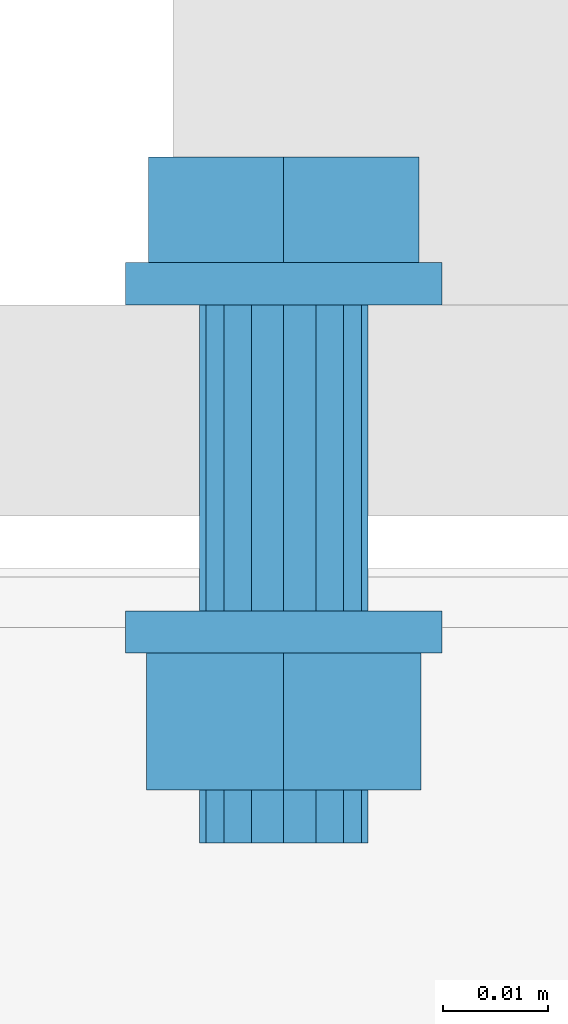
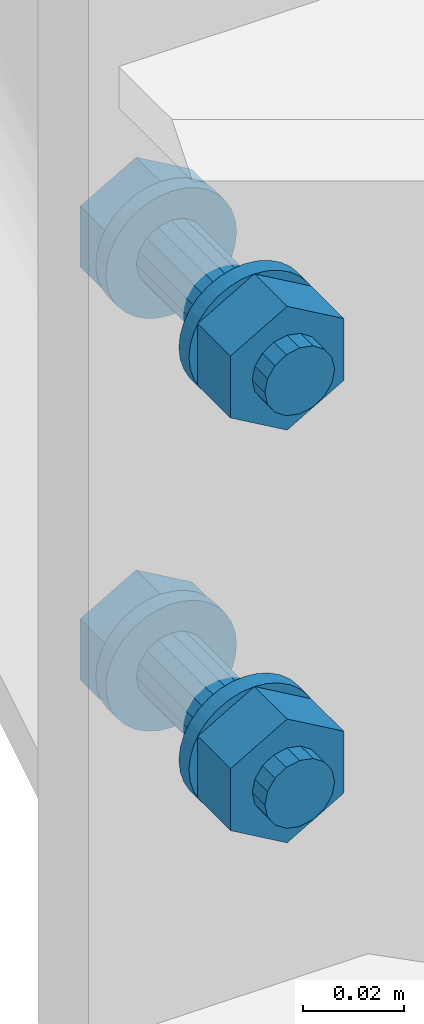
# One storey, part 8 of 21: 2 mechanical fasteners.
"""IFC4X3_ADD2 building model written with IfcOpenShell, lengths in millimetres."""

from ifc_helpers import new_model, entity, si_unit, converted_unit, derived_unit, direction, frame, origin, place, context, project, spatial, faceted_brep, element, save


model = new_model("IFC4X3_ADD2")

# Units and contexts
model_context = context("Model", 3, precision=0.01, world=origin(), true_north=direction((6.123233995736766e-17, 1.0)))
plan_context = context("Plan", 3, precision=0.01, world=origin(), true_north=direction((6.123233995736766e-17, 1.0)))
ifc_project = project(units=[si_unit("LENGTHUNIT", "METRE", prefix="MILLI"), converted_unit("PLANEANGLEUNIT", "DEGREE", entity("IfcPlaneAngleMeasure", 0.017453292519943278), si_unit("PLANEANGLEUNIT", "RADIAN"), dimensions=[0, 0, 0, 0, 0, 0, 0]), si_unit("AREAUNIT", "SQUARE_METRE"), si_unit("VOLUMEUNIT", "CUBIC_METRE"), derived_unit("THERMALTRANSMITTANCEUNIT", [(si_unit("MASSUNIT", "GRAM", prefix="KILO"), 1), (si_unit("THERMODYNAMICTEMPERATUREUNIT", "KELVIN"), -1), (si_unit("TIMEUNIT", "SECOND"), -3)]), derived_unit("USERDEFINED", [(si_unit("MASSUNIT", "GRAM", prefix="KILO"), 1), (si_unit("THERMODYNAMICTEMPERATUREUNIT", "KELVIN"), -1), (si_unit("TIMEUNIT", "SECOND"), -2)]), derived_unit("THERMALRESISTANCEUNIT", [(si_unit("MASSUNIT", "GRAM", prefix="KILO"), -1), (si_unit("TIMEUNIT", "SECOND"), 3), (si_unit("THERMODYNAMICTEMPERATUREUNIT", "KELVIN"), 1)]), si_unit("MASSUNIT", "GRAM", prefix="KILO"), derived_unit("MOMENTOFINERTIAUNIT", [(si_unit("LENGTHUNIT", "METRE"), 4)]), derived_unit("LINEARFORCEUNIT", [(si_unit("MASSUNIT", "GRAM", prefix="KILO"), 1), (si_unit("TIMEUNIT", "SECOND"), -2)]), derived_unit("WARPINGCONSTANTUNIT", [(si_unit("LENGTHUNIT", "METRE"), 6)]), si_unit("PRESSUREUNIT", "PASCAL"), derived_unit("MASSDENSITYUNIT", [(si_unit("MASSUNIT", "GRAM", prefix="KILO"), 1), (si_unit("LENGTHUNIT", "METRE"), -3)]), derived_unit("MODULUSOFELASTICITYUNIT", [(si_unit("MASSUNIT", "GRAM", prefix="KILO"), 1), (si_unit("TIMEUNIT", "SECOND"), -2), (si_unit("LENGTHUNIT", "METRE"), -1)]), derived_unit("THERMALEXPANSIONCOEFFICIENTUNIT", [(si_unit("THERMODYNAMICTEMPERATUREUNIT", "KELVIN"), -1)]), derived_unit("VAPORPERMEABILITYUNIT", [(si_unit("LENGTHUNIT", "METRE"), -1), (si_unit("TIMEUNIT", "SECOND"), 1)]), derived_unit("USERDEFINED", [(si_unit("MASSUNIT", "GRAM", prefix="KILO"), 1), (si_unit("TIMEUNIT", "SECOND"), -3), (si_unit("LENGTHUNIT", "METRE"), 3), (si_unit("ELECTRICCURRENTUNIT", "AMPERE"), -2)]), derived_unit("SPECIFICHEATCAPACITYUNIT", [(si_unit("THERMODYNAMICTEMPERATUREUNIT", "KELVIN"), -1), (si_unit("TIMEUNIT", "SECOND"), -2), (si_unit("LENGTHUNIT", "METRE"), 2)]), derived_unit("THERMALCONDUCTANCEUNIT", [(si_unit("MASSUNIT", "GRAM", prefix="KILO"), 1), (si_unit("THERMODYNAMICTEMPERATUREUNIT", "KELVIN"), -1), (si_unit("TIMEUNIT", "SECOND"), -3), (si_unit("LENGTHUNIT", "METRE"), 1)])], contexts=[model_context, plan_context])

# Site, building, storey
site_placement = place(None, origin())
site = spatial("IfcSite", under=ifc_project, at=site_placement, Name="Default", CompositionType="ELEMENT")
building_placement = place(site_placement, origin())
building = spatial("IfcBuilding", under=site, at=building_placement, Name="Complex structure", CompositionType="ELEMENT")
storey_placement = place(building_placement, frame((0.0, 0.0, 3000.0)))
storey = spatial("IfcBuildingStorey", under=building, at=storey_placement, Name="Level 01", CompositionType="ELEMENT", Elevation=3000.0)

# Mechanical fasteners
mechanical_fastener_1_placement = place(storey_placement, frame((0.0, 0.0, -3000.0)))
element("IfcMechanicalFastener", 1, at=mechanical_fastener_1_placement, inside=storey, ObjectType="Bolt#5", NominalDiameter=16.0, NominalLength=55.0, context=model_context, shape_type="Brep", body=[
    faceted_brep([(-13179.721550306, -1182.866703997, 3703.0), (-13179.721550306, -1186.866703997, 3703.0), (-13180.0097711, -1186.866703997, 3700.07364517), (-13180.0097711, -1182.866703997, 3700.07364517), (-13180.863357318, -1186.866703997, 3697.259748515), (-13180.863357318, -1182.866703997, 3697.259748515), (-13182.249506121, -1186.866703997, 3694.666446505), (-13182.249506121, -1182.866703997, 3694.666446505), (-13184.114948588, -1186.866703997, 3692.393398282), (-13184.114948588, -1182.866703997, 3692.393398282), (-13186.387996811, -1186.866703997, 3690.527955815), (-13186.387996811, -1182.866703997, 3690.527955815), (-13188.98129882, -1186.866703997, 3689.141807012), (-13188.98129882, -1182.866703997, 3689.141807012), (-13191.795195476, -1186.866703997, 3688.288220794), (-13191.795195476, -1182.866703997, 3688.288220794), (-13194.721550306, -1186.866703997, 3688.0), (-13194.721550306, -1182.866703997, 3688.0), (-13197.647905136, -1186.866703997, 3688.288220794), (-13197.647905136, -1182.866703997, 3688.288220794), (-13200.461801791, -1186.866703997, 3689.141807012), (-13200.461801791, -1182.866703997, 3689.141807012), (-13203.055103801, -1186.866703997, 3690.527955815), (-13203.055103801, -1182.866703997, 3690.527955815), (-13205.328152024, -1186.866703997, 3692.393398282), (-13205.328152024, -1182.866703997, 3692.393398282), (-13207.19359449, -1186.866703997, 3694.666446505), (-13207.19359449, -1182.866703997, 3694.666446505), (-13208.579743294, -1186.866703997, 3697.259748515), (-13208.579743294, -1182.866703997, 3697.259748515), (-13209.433329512, -1186.866703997, 3700.07364517), (-13209.433329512, -1182.866703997, 3700.07364517), (-13209.721550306, -1186.866703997, 3703.0), (-13209.721550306, -1182.866703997, 3703.0), (-13209.433329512, -1186.866703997, 3705.92635483), (-13209.433329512, -1182.866703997, 3705.92635483), (-13208.579743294, -1186.866703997, 3708.740251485), (-13208.579743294, -1182.866703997, 3708.740251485), (-13207.19359449, -1186.866703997, 3711.333553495), (-13207.19359449, -1182.866703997, 3711.333553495), (-13205.328152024, -1186.866703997, 3713.606601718), (-13205.328152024, -1182.866703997, 3713.606601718), (-13203.055103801, -1186.866703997, 3715.472044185), (-13203.055103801, -1182.866703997, 3715.472044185), (-13200.461801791, -1186.866703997, 3716.858192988), (-13200.461801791, -1182.866703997, 3716.858192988), (-13197.647905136, -1186.866703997, 3717.711779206), (-13197.647905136, -1182.866703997, 3717.711779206), (-13194.721550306, -1186.866703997, 3718.0), (-13194.721550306, -1182.866703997, 3718.0), (-13191.795195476, -1186.866703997, 3717.711779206), (-13191.795195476, -1182.866703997, 3717.711779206), (-13188.98129882, -1186.866703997, 3716.858192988), (-13188.98129882, -1182.866703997, 3716.858192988), (-13186.387996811, -1186.866703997, 3715.472044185), (-13186.387996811, -1182.866703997, 3715.472044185), (-13184.114948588, -1186.866703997, 3713.606601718), (-13184.114948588, -1182.866703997, 3713.606601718), (-13182.249506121, -1186.866703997, 3711.333553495), (-13182.249506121, -1182.866703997, 3711.333553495), (-13180.863357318, -1186.866703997, 3708.740251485), (-13180.863357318, -1182.866703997, 3708.740251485), (-13180.0097711, -1186.866703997, 3705.92635483), (-13180.0097711, -1182.866703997, 3705.92635483)], [[[0, 1, 2, 3]], [[3, 2, 4, 5]], [[5, 4, 6, 7]], [[7, 6, 8, 9]], [[9, 8, 10, 11]], [[11, 10, 12, 13]], [[13, 12, 14, 15]], [[15, 14, 16, 17]], [[17, 16, 18, 19]], [[19, 18, 20, 21]], [[21, 20, 22, 23]], [[23, 22, 24, 25]], [[25, 24, 26, 27]], [[27, 26, 28, 29]], [[29, 28, 30, 31]], [[31, 30, 32, 33]], [[33, 32, 34, 35]], [[35, 34, 36, 37]], [[37, 36, 38, 39]], [[39, 38, 40, 41]], [[41, 40, 42, 43]], [[43, 42, 44, 45]], [[45, 44, 46, 47]], [[47, 46, 48, 49]], [[49, 48, 50, 51]], [[51, 50, 52, 53]], [[53, 52, 54, 55]], [[55, 54, 56, 57]], [[57, 56, 58, 59]], [[59, 58, 60, 61]], [[61, 60, 62, 63]], [[63, 62, 1, 0]], [[0, 3, 5, 7, 9, 11, 13, 15, 17, 19, 21, 23, 25, 27, 29, 31, 33, 35, 37, 39, 41, 43, 45, 47, 49, 51, 53, 55, 57, 59, 61, 63]], [[1, 62, 60, 58, 56, 54, 52, 50, 48, 46, 44, 42, 40, 38, 36, 34, 32, 30, 28, 26, 24, 22, 20, 18, 16, 14, 12, 10, 8, 6, 4, 2]]]),
    faceted_brep([(-13207.521405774, -1182.866703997, 3695.61), (-13207.521405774, -1172.866703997, 3695.61), (-13194.721550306, -1172.866703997, 3688.22), (-13194.721550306, -1182.866703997, 3688.22), (-13181.921694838, -1172.866703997, 3695.61), (-13181.921694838, -1182.866703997, 3695.61), (-13181.921694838, -1172.866703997, 3710.39), (-13181.921694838, -1182.866703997, 3710.39), (-13194.721550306, -1172.866703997, 3717.78), (-13194.721550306, -1182.866703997, 3717.78), (-13207.521405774, -1172.866703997, 3710.39), (-13207.521405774, -1182.866703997, 3710.39)], [[[0, 1, 2, 3]], [[3, 2, 4, 5]], [[5, 4, 6, 7]], [[7, 6, 8, 9]], [[9, 8, 10, 11]], [[11, 10, 1, 0]], [[4, 2, 1, 10, 8, 6]], [[0, 3, 5, 7, 9, 11]]]),
    faceted_brep([(-13186.721550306, -1186.866703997, 3703.0), (-13186.721550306, -1215.866703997, 3703.0), (-13187.330514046, -1215.866703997, 3699.938532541), (-13187.330514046, -1186.866703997, 3699.938532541), (-13189.064696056, -1215.866703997, 3697.343145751), (-13189.064696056, -1186.866703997, 3697.343145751), (-13191.660082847, -1215.866703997, 3695.60896374), (-13191.660082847, -1186.866703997, 3695.60896374), (-13194.721550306, -1215.866703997, 3695.0), (-13194.721550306, -1186.866703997, 3695.0), (-13197.783017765, -1215.866703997, 3695.60896374), (-13197.783017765, -1186.866703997, 3695.60896374), (-13200.378404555, -1215.866703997, 3697.343145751), (-13200.378404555, -1186.866703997, 3697.343145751), (-13202.112586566, -1215.866703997, 3699.938532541), (-13202.112586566, -1186.866703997, 3699.938532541), (-13202.721550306, -1215.866703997, 3703.0), (-13202.721550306, -1186.866703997, 3703.0), (-13202.112586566, -1215.866703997, 3706.061467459), (-13202.112586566, -1186.866703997, 3706.061467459), (-13200.378404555, -1215.866703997, 3708.656854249), (-13200.378404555, -1186.866703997, 3708.656854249), (-13197.783017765, -1215.866703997, 3710.39103626), (-13197.783017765, -1186.866703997, 3710.39103626), (-13194.721550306, -1215.866703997, 3711.0), (-13194.721550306, -1186.866703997, 3711.0), (-13191.660082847, -1215.866703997, 3710.39103626), (-13191.660082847, -1186.866703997, 3710.39103626), (-13189.064696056, -1215.866703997, 3708.656854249), (-13189.064696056, -1186.866703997, 3708.656854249), (-13187.330514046, -1215.866703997, 3706.061467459), (-13187.330514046, -1186.866703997, 3706.061467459)], [[[0, 1, 2, 3]], [[3, 2, 4, 5]], [[5, 4, 6, 7]], [[7, 6, 8, 9]], [[9, 8, 10, 11]], [[11, 10, 12, 13]], [[13, 12, 14, 15]], [[15, 14, 16, 17]], [[17, 16, 18, 19]], [[19, 18, 20, 21]], [[21, 20, 22, 23]], [[23, 22, 24, 25]], [[25, 24, 26, 27]], [[27, 26, 28, 29]], [[29, 28, 30, 31]], [[31, 30, 1, 0]], [[0, 3, 5, 7, 9, 11, 13, 15, 17, 19, 21, 23, 25, 27, 29, 31]], [[1, 30, 28, 26, 24, 22, 20, 18, 16, 14, 12, 10, 8, 6, 4, 2]]]),
    faceted_brep([(-13179.721550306, -1215.866703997, 3703.0), (-13179.721550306, -1219.866703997, 3703.0), (-13180.0097711, -1219.866703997, 3700.07364517), (-13180.0097711, -1215.866703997, 3700.07364517), (-13180.863357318, -1219.866703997, 3697.259748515), (-13180.863357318, -1215.866703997, 3697.259748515), (-13182.249506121, -1219.866703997, 3694.666446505), (-13182.249506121, -1215.866703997, 3694.666446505), (-13184.114948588, -1219.866703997, 3692.393398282), (-13184.114948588, -1215.866703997, 3692.393398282), (-13186.387996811, -1219.866703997, 3690.527955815), (-13186.387996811, -1215.866703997, 3690.527955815), (-13188.98129882, -1219.866703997, 3689.141807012), (-13188.98129882, -1215.866703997, 3689.141807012), (-13191.795195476, -1219.866703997, 3688.288220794), (-13191.795195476, -1215.866703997, 3688.288220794), (-13194.721550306, -1219.866703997, 3688.0), (-13194.721550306, -1215.866703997, 3688.0), (-13197.647905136, -1219.866703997, 3688.288220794), (-13197.647905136, -1215.866703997, 3688.288220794), (-13200.461801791, -1219.866703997, 3689.141807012), (-13200.461801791, -1215.866703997, 3689.141807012), (-13203.055103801, -1219.866703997, 3690.527955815), (-13203.055103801, -1215.866703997, 3690.527955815), (-13205.328152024, -1219.866703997, 3692.393398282), (-13205.328152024, -1215.866703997, 3692.393398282), (-13207.19359449, -1219.866703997, 3694.666446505), (-13207.19359449, -1215.866703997, 3694.666446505), (-13208.579743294, -1219.866703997, 3697.259748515), (-13208.579743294, -1215.866703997, 3697.259748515), (-13209.433329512, -1219.866703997, 3700.07364517), (-13209.433329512, -1215.866703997, 3700.07364517), (-13209.721550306, -1219.866703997, 3703.0), (-13209.721550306, -1215.866703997, 3703.0), (-13209.433329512, -1219.866703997, 3705.92635483), (-13209.433329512, -1215.866703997, 3705.92635483), (-13208.579743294, -1219.866703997, 3708.740251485), (-13208.579743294, -1215.866703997, 3708.740251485), (-13207.19359449, -1219.866703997, 3711.333553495), (-13207.19359449, -1215.866703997, 3711.333553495), (-13205.328152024, -1219.866703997, 3713.606601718), (-13205.328152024, -1215.866703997, 3713.606601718), (-13203.055103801, -1219.866703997, 3715.472044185), (-13203.055103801, -1215.866703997, 3715.472044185), (-13200.461801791, -1219.866703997, 3716.858192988), (-13200.461801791, -1215.866703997, 3716.858192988), (-13197.647905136, -1219.866703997, 3717.711779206), (-13197.647905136, -1215.866703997, 3717.711779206), (-13194.721550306, -1219.866703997, 3718.0), (-13194.721550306, -1215.866703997, 3718.0), (-13191.795195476, -1219.866703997, 3717.711779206), (-13191.795195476, -1215.866703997, 3717.711779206), (-13188.98129882, -1219.866703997, 3716.858192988), (-13188.98129882, -1215.866703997, 3716.858192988), (-13186.387996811, -1219.866703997, 3715.472044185), (-13186.387996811, -1215.866703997, 3715.472044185), (-13184.114948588, -1219.866703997, 3713.606601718), (-13184.114948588, -1215.866703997, 3713.606601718), (-13182.249506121, -1219.866703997, 3711.333553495), (-13182.249506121, -1215.866703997, 3711.333553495), (-13180.863357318, -1219.866703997, 3708.740251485), (-13180.863357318, -1215.866703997, 3708.740251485), (-13180.0097711, -1219.866703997, 3705.92635483), (-13180.0097711, -1215.866703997, 3705.92635483)], [[[0, 1, 2, 3]], [[3, 2, 4, 5]], [[5, 4, 6, 7]], [[7, 6, 8, 9]], [[9, 8, 10, 11]], [[11, 10, 12, 13]], [[13, 12, 14, 15]], [[15, 14, 16, 17]], [[17, 16, 18, 19]], [[19, 18, 20, 21]], [[21, 20, 22, 23]], [[23, 22, 24, 25]], [[25, 24, 26, 27]], [[27, 26, 28, 29]], [[29, 28, 30, 31]], [[31, 30, 32, 33]], [[33, 32, 34, 35]], [[35, 34, 36, 37]], [[37, 36, 38, 39]], [[39, 38, 40, 41]], [[41, 40, 42, 43]], [[43, 42, 44, 45]], [[45, 44, 46, 47]], [[47, 46, 48, 49]], [[49, 48, 50, 51]], [[51, 50, 52, 53]], [[53, 52, 54, 55]], [[55, 54, 56, 57]], [[57, 56, 58, 59]], [[59, 58, 60, 61]], [[61, 60, 62, 63]], [[63, 62, 1, 0]], [[0, 3, 5, 7, 9, 11, 13, 15, 17, 19, 21, 23, 25, 27, 29, 31, 33, 35, 37, 39, 41, 43, 45, 47, 49, 51, 53, 55, 57, 59, 61, 63]], [[1, 62, 60, 58, 56, 54, 52, 50, 48, 46, 44, 42, 40, 38, 36, 34, 32, 30, 28, 26, 24, 22, 20, 18, 16, 14, 12, 10, 8, 6, 4, 2]]]),
    faceted_brep([(-13207.711931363, -1232.866703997, 3695.5), (-13207.711931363, -1219.866703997, 3695.5), (-13194.721550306, -1219.866703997, 3688.0), (-13194.721550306, -1232.866703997, 3688.0), (-13181.731169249, -1219.866703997, 3695.5), (-13181.731169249, -1232.866703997, 3695.5), (-13181.731169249, -1219.866703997, 3710.5), (-13181.731169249, -1232.866703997, 3710.5), (-13194.721550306, -1219.866703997, 3718.0), (-13194.721550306, -1232.866703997, 3718.0), (-13207.711931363, -1219.866703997, 3710.5), (-13207.711931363, -1232.866703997, 3710.5)], [[[0, 1, 2, 3]], [[3, 2, 4, 5]], [[5, 4, 6, 7]], [[7, 6, 8, 9]], [[9, 8, 10, 11]], [[11, 10, 1, 0]], [[4, 2, 1, 10, 8, 6]], [[0, 3, 5, 7, 9, 11]]]),
    faceted_brep([(-13186.721550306, -1232.866703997, 3703.0), (-13186.721550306, -1237.866703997, 3703.0), (-13187.330514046, -1237.866703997, 3699.938532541), (-13187.330514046, -1232.866703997, 3699.938532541), (-13189.064696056, -1237.866703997, 3697.343145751), (-13189.064696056, -1232.866703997, 3697.343145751), (-13191.660082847, -1237.866703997, 3695.60896374), (-13191.660082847, -1232.866703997, 3695.60896374), (-13194.721550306, -1237.866703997, 3695.0), (-13194.721550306, -1232.866703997, 3695.0), (-13197.783017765, -1237.866703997, 3695.60896374), (-13197.783017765, -1232.866703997, 3695.60896374), (-13200.378404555, -1237.866703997, 3697.343145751), (-13200.378404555, -1232.866703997, 3697.343145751), (-13202.112586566, -1237.866703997, 3699.938532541), (-13202.112586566, -1232.866703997, 3699.938532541), (-13202.721550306, -1237.866703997, 3703.0), (-13202.721550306, -1232.866703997, 3703.0), (-13202.112586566, -1237.866703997, 3706.061467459), (-13202.112586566, -1232.866703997, 3706.061467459), (-13200.378404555, -1237.866703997, 3708.656854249), (-13200.378404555, -1232.866703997, 3708.656854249), (-13197.783017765, -1237.866703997, 3710.39103626), (-13197.783017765, -1232.866703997, 3710.39103626), (-13194.721550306, -1237.866703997, 3711.0), (-13194.721550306, -1232.866703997, 3711.0), (-13191.660082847, -1237.866703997, 3710.39103626), (-13191.660082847, -1232.866703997, 3710.39103626), (-13189.064696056, -1237.866703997, 3708.656854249), (-13189.064696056, -1232.866703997, 3708.656854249), (-13187.330514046, -1237.866703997, 3706.061467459), (-13187.330514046, -1232.866703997, 3706.061467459)], [[[0, 1, 2, 3]], [[3, 2, 4, 5]], [[5, 4, 6, 7]], [[7, 6, 8, 9]], [[9, 8, 10, 11]], [[11, 10, 12, 13]], [[13, 12, 14, 15]], [[15, 14, 16, 17]], [[17, 16, 18, 19]], [[19, 18, 20, 21]], [[21, 20, 22, 23]], [[23, 22, 24, 25]], [[25, 24, 26, 27]], [[27, 26, 28, 29]], [[29, 28, 30, 31]], [[31, 30, 1, 0]], [[0, 3, 5, 7, 9, 11, 13, 15, 17, 19, 21, 23, 25, 27, 29, 31]], [[1, 30, 28, 26, 24, 22, 20, 18, 16, 14, 12, 10, 8, 6, 4, 2]]]),
])
mechanical_fastener_2_placement = place(storey_placement, frame((0.0, 0.0, -3000.0)))
element("IfcMechanicalFastener", 2, at=mechanical_fastener_2_placement, inside=storey, ObjectType="Bolt#6", NominalDiameter=16.0, NominalLength=55.0, context=model_context, shape_type="Brep", body=[
    faceted_brep([(-13179.721550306, -1182.866703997, 3603.0), (-13179.721550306, -1186.866703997, 3603.0), (-13180.0097711, -1186.866703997, 3600.07364517), (-13180.0097711, -1182.866703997, 3600.07364517), (-13180.863357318, -1186.866703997, 3597.259748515), (-13180.863357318, -1182.866703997, 3597.259748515), (-13182.249506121, -1186.866703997, 3594.666446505), (-13182.249506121, -1182.866703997, 3594.666446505), (-13184.114948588, -1186.866703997, 3592.393398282), (-13184.114948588, -1182.866703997, 3592.393398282), (-13186.387996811, -1186.866703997, 3590.527955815), (-13186.387996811, -1182.866703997, 3590.527955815), (-13188.98129882, -1186.866703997, 3589.141807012), (-13188.98129882, -1182.866703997, 3589.141807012), (-13191.795195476, -1186.866703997, 3588.288220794), (-13191.795195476, -1182.866703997, 3588.288220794), (-13194.721550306, -1186.866703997, 3588.0), (-13194.721550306, -1182.866703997, 3588.0), (-13197.647905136, -1186.866703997, 3588.288220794), (-13197.647905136, -1182.866703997, 3588.288220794), (-13200.461801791, -1186.866703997, 3589.141807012), (-13200.461801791, -1182.866703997, 3589.141807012), (-13203.055103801, -1186.866703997, 3590.527955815), (-13203.055103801, -1182.866703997, 3590.527955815), (-13205.328152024, -1186.866703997, 3592.393398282), (-13205.328152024, -1182.866703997, 3592.393398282), (-13207.19359449, -1186.866703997, 3594.666446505), (-13207.19359449, -1182.866703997, 3594.666446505), (-13208.579743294, -1186.866703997, 3597.259748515), (-13208.579743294, -1182.866703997, 3597.259748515), (-13209.433329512, -1186.866703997, 3600.07364517), (-13209.433329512, -1182.866703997, 3600.07364517), (-13209.721550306, -1186.866703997, 3603.0), (-13209.721550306, -1182.866703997, 3603.0), (-13209.433329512, -1186.866703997, 3605.92635483), (-13209.433329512, -1182.866703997, 3605.92635483), (-13208.579743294, -1186.866703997, 3608.740251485), (-13208.579743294, -1182.866703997, 3608.740251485), (-13207.19359449, -1186.866703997, 3611.333553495), (-13207.19359449, -1182.866703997, 3611.333553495), (-13205.328152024, -1186.866703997, 3613.606601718), (-13205.328152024, -1182.866703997, 3613.606601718), (-13203.055103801, -1186.866703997, 3615.472044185), (-13203.055103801, -1182.866703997, 3615.472044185), (-13200.461801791, -1186.866703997, 3616.858192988), (-13200.461801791, -1182.866703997, 3616.858192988), (-13197.647905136, -1186.866703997, 3617.711779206), (-13197.647905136, -1182.866703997, 3617.711779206), (-13194.721550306, -1186.866703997, 3618.0), (-13194.721550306, -1182.866703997, 3618.0), (-13191.795195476, -1186.866703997, 3617.711779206), (-13191.795195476, -1182.866703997, 3617.711779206), (-13188.98129882, -1186.866703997, 3616.858192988), (-13188.98129882, -1182.866703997, 3616.858192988), (-13186.387996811, -1186.866703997, 3615.472044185), (-13186.387996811, -1182.866703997, 3615.472044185), (-13184.114948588, -1186.866703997, 3613.606601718), (-13184.114948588, -1182.866703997, 3613.606601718), (-13182.249506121, -1186.866703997, 3611.333553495), (-13182.249506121, -1182.866703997, 3611.333553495), (-13180.863357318, -1186.866703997, 3608.740251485), (-13180.863357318, -1182.866703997, 3608.740251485), (-13180.0097711, -1186.866703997, 3605.92635483), (-13180.0097711, -1182.866703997, 3605.92635483)], [[[0, 1, 2, 3]], [[3, 2, 4, 5]], [[5, 4, 6, 7]], [[7, 6, 8, 9]], [[9, 8, 10, 11]], [[11, 10, 12, 13]], [[13, 12, 14, 15]], [[15, 14, 16, 17]], [[17, 16, 18, 19]], [[19, 18, 20, 21]], [[21, 20, 22, 23]], [[23, 22, 24, 25]], [[25, 24, 26, 27]], [[27, 26, 28, 29]], [[29, 28, 30, 31]], [[31, 30, 32, 33]], [[33, 32, 34, 35]], [[35, 34, 36, 37]], [[37, 36, 38, 39]], [[39, 38, 40, 41]], [[41, 40, 42, 43]], [[43, 42, 44, 45]], [[45, 44, 46, 47]], [[47, 46, 48, 49]], [[49, 48, 50, 51]], [[51, 50, 52, 53]], [[53, 52, 54, 55]], [[55, 54, 56, 57]], [[57, 56, 58, 59]], [[59, 58, 60, 61]], [[61, 60, 62, 63]], [[63, 62, 1, 0]], [[0, 3, 5, 7, 9, 11, 13, 15, 17, 19, 21, 23, 25, 27, 29, 31, 33, 35, 37, 39, 41, 43, 45, 47, 49, 51, 53, 55, 57, 59, 61, 63]], [[1, 62, 60, 58, 56, 54, 52, 50, 48, 46, 44, 42, 40, 38, 36, 34, 32, 30, 28, 26, 24, 22, 20, 18, 16, 14, 12, 10, 8, 6, 4, 2]]]),
    faceted_brep([(-13207.521405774, -1182.866703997, 3595.61), (-13207.521405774, -1172.866703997, 3595.61), (-13194.721550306, -1172.866703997, 3588.22), (-13194.721550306, -1182.866703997, 3588.22), (-13181.921694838, -1172.866703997, 3595.61), (-13181.921694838, -1182.866703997, 3595.61), (-13181.921694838, -1172.866703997, 3610.39), (-13181.921694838, -1182.866703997, 3610.39), (-13194.721550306, -1172.866703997, 3617.78), (-13194.721550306, -1182.866703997, 3617.78), (-13207.521405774, -1172.866703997, 3610.39), (-13207.521405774, -1182.866703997, 3610.39)], [[[0, 1, 2, 3]], [[3, 2, 4, 5]], [[5, 4, 6, 7]], [[7, 6, 8, 9]], [[9, 8, 10, 11]], [[11, 10, 1, 0]], [[4, 2, 1, 10, 8, 6]], [[0, 3, 5, 7, 9, 11]]]),
    faceted_brep([(-13186.721550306, -1186.866703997, 3603.0), (-13186.721550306, -1215.866703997, 3603.0), (-13187.330514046, -1215.866703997, 3599.938532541), (-13187.330514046, -1186.866703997, 3599.938532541), (-13189.064696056, -1215.866703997, 3597.343145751), (-13189.064696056, -1186.866703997, 3597.343145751), (-13191.660082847, -1215.866703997, 3595.60896374), (-13191.660082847, -1186.866703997, 3595.60896374), (-13194.721550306, -1215.866703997, 3595.0), (-13194.721550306, -1186.866703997, 3595.0), (-13197.783017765, -1215.866703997, 3595.60896374), (-13197.783017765, -1186.866703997, 3595.60896374), (-13200.378404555, -1215.866703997, 3597.343145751), (-13200.378404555, -1186.866703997, 3597.343145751), (-13202.112586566, -1215.866703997, 3599.938532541), (-13202.112586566, -1186.866703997, 3599.938532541), (-13202.721550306, -1215.866703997, 3603.0), (-13202.721550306, -1186.866703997, 3603.0), (-13202.112586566, -1215.866703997, 3606.061467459), (-13202.112586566, -1186.866703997, 3606.061467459), (-13200.378404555, -1215.866703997, 3608.656854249), (-13200.378404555, -1186.866703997, 3608.656854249), (-13197.783017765, -1215.866703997, 3610.39103626), (-13197.783017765, -1186.866703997, 3610.39103626), (-13194.721550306, -1215.866703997, 3611.0), (-13194.721550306, -1186.866703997, 3611.0), (-13191.660082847, -1215.866703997, 3610.39103626), (-13191.660082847, -1186.866703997, 3610.39103626), (-13189.064696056, -1215.866703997, 3608.656854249), (-13189.064696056, -1186.866703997, 3608.656854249), (-13187.330514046, -1215.866703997, 3606.061467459), (-13187.330514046, -1186.866703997, 3606.061467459)], [[[0, 1, 2, 3]], [[3, 2, 4, 5]], [[5, 4, 6, 7]], [[7, 6, 8, 9]], [[9, 8, 10, 11]], [[11, 10, 12, 13]], [[13, 12, 14, 15]], [[15, 14, 16, 17]], [[17, 16, 18, 19]], [[19, 18, 20, 21]], [[21, 20, 22, 23]], [[23, 22, 24, 25]], [[25, 24, 26, 27]], [[27, 26, 28, 29]], [[29, 28, 30, 31]], [[31, 30, 1, 0]], [[0, 3, 5, 7, 9, 11, 13, 15, 17, 19, 21, 23, 25, 27, 29, 31]], [[1, 30, 28, 26, 24, 22, 20, 18, 16, 14, 12, 10, 8, 6, 4, 2]]]),
    faceted_brep([(-13179.721550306, -1215.866703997, 3603.0), (-13179.721550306, -1219.866703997, 3603.0), (-13180.0097711, -1219.866703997, 3600.07364517), (-13180.0097711, -1215.866703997, 3600.07364517), (-13180.863357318, -1219.866703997, 3597.259748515), (-13180.863357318, -1215.866703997, 3597.259748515), (-13182.249506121, -1219.866703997, 3594.666446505), (-13182.249506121, -1215.866703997, 3594.666446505), (-13184.114948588, -1219.866703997, 3592.393398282), (-13184.114948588, -1215.866703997, 3592.393398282), (-13186.387996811, -1219.866703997, 3590.527955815), (-13186.387996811, -1215.866703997, 3590.527955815), (-13188.98129882, -1219.866703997, 3589.141807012), (-13188.98129882, -1215.866703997, 3589.141807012), (-13191.795195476, -1219.866703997, 3588.288220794), (-13191.795195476, -1215.866703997, 3588.288220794), (-13194.721550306, -1219.866703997, 3588.0), (-13194.721550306, -1215.866703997, 3588.0), (-13197.647905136, -1219.866703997, 3588.288220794), (-13197.647905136, -1215.866703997, 3588.288220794), (-13200.461801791, -1219.866703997, 3589.141807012), (-13200.461801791, -1215.866703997, 3589.141807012), (-13203.055103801, -1219.866703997, 3590.527955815), (-13203.055103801, -1215.866703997, 3590.527955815), (-13205.328152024, -1219.866703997, 3592.393398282), (-13205.328152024, -1215.866703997, 3592.393398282), (-13207.19359449, -1219.866703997, 3594.666446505), (-13207.19359449, -1215.866703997, 3594.666446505), (-13208.579743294, -1219.866703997, 3597.259748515), (-13208.579743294, -1215.866703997, 3597.259748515), (-13209.433329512, -1219.866703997, 3600.07364517), (-13209.433329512, -1215.866703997, 3600.07364517), (-13209.721550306, -1219.866703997, 3603.0), (-13209.721550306, -1215.866703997, 3603.0), (-13209.433329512, -1219.866703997, 3605.92635483), (-13209.433329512, -1215.866703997, 3605.92635483), (-13208.579743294, -1219.866703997, 3608.740251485), (-13208.579743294, -1215.866703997, 3608.740251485), (-13207.19359449, -1219.866703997, 3611.333553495), (-13207.19359449, -1215.866703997, 3611.333553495), (-13205.328152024, -1219.866703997, 3613.606601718), (-13205.328152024, -1215.866703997, 3613.606601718), (-13203.055103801, -1219.866703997, 3615.472044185), (-13203.055103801, -1215.866703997, 3615.472044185), (-13200.461801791, -1219.866703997, 3616.858192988), (-13200.461801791, -1215.866703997, 3616.858192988), (-13197.647905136, -1219.866703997, 3617.711779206), (-13197.647905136, -1215.866703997, 3617.711779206), (-13194.721550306, -1219.866703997, 3618.0), (-13194.721550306, -1215.866703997, 3618.0), (-13191.795195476, -1219.866703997, 3617.711779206), (-13191.795195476, -1215.866703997, 3617.711779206), (-13188.98129882, -1219.866703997, 3616.858192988), (-13188.98129882, -1215.866703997, 3616.858192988), (-13186.387996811, -1219.866703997, 3615.472044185), (-13186.387996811, -1215.866703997, 3615.472044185), (-13184.114948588, -1219.866703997, 3613.606601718), (-13184.114948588, -1215.866703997, 3613.606601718), (-13182.249506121, -1219.866703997, 3611.333553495), (-13182.249506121, -1215.866703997, 3611.333553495), (-13180.863357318, -1219.866703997, 3608.740251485), (-13180.863357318, -1215.866703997, 3608.740251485), (-13180.0097711, -1219.866703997, 3605.92635483), (-13180.0097711, -1215.866703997, 3605.92635483)], [[[0, 1, 2, 3]], [[3, 2, 4, 5]], [[5, 4, 6, 7]], [[7, 6, 8, 9]], [[9, 8, 10, 11]], [[11, 10, 12, 13]], [[13, 12, 14, 15]], [[15, 14, 16, 17]], [[17, 16, 18, 19]], [[19, 18, 20, 21]], [[21, 20, 22, 23]], [[23, 22, 24, 25]], [[25, 24, 26, 27]], [[27, 26, 28, 29]], [[29, 28, 30, 31]], [[31, 30, 32, 33]], [[33, 32, 34, 35]], [[35, 34, 36, 37]], [[37, 36, 38, 39]], [[39, 38, 40, 41]], [[41, 40, 42, 43]], [[43, 42, 44, 45]], [[45, 44, 46, 47]], [[47, 46, 48, 49]], [[49, 48, 50, 51]], [[51, 50, 52, 53]], [[53, 52, 54, 55]], [[55, 54, 56, 57]], [[57, 56, 58, 59]], [[59, 58, 60, 61]], [[61, 60, 62, 63]], [[63, 62, 1, 0]], [[0, 3, 5, 7, 9, 11, 13, 15, 17, 19, 21, 23, 25, 27, 29, 31, 33, 35, 37, 39, 41, 43, 45, 47, 49, 51, 53, 55, 57, 59, 61, 63]], [[1, 62, 60, 58, 56, 54, 52, 50, 48, 46, 44, 42, 40, 38, 36, 34, 32, 30, 28, 26, 24, 22, 20, 18, 16, 14, 12, 10, 8, 6, 4, 2]]]),
    faceted_brep([(-13207.711931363, -1232.866703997, 3595.5), (-13207.711931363, -1219.866703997, 3595.5), (-13194.721550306, -1219.866703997, 3588.0), (-13194.721550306, -1232.866703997, 3588.0), (-13181.731169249, -1219.866703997, 3595.5), (-13181.731169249, -1232.866703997, 3595.5), (-13181.731169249, -1219.866703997, 3610.5), (-13181.731169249, -1232.866703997, 3610.5), (-13194.721550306, -1219.866703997, 3618.0), (-13194.721550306, -1232.866703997, 3618.0), (-13207.711931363, -1219.866703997, 3610.5), (-13207.711931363, -1232.866703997, 3610.5)], [[[0, 1, 2, 3]], [[3, 2, 4, 5]], [[5, 4, 6, 7]], [[7, 6, 8, 9]], [[9, 8, 10, 11]], [[11, 10, 1, 0]], [[4, 2, 1, 10, 8, 6]], [[0, 3, 5, 7, 9, 11]]]),
    faceted_brep([(-13186.721550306, -1232.866703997, 3603.0), (-13186.721550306, -1237.866703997, 3603.0), (-13187.330514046, -1237.866703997, 3599.938532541), (-13187.330514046, -1232.866703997, 3599.938532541), (-13189.064696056, -1237.866703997, 3597.343145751), (-13189.064696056, -1232.866703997, 3597.343145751), (-13191.660082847, -1237.866703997, 3595.60896374), (-13191.660082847, -1232.866703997, 3595.60896374), (-13194.721550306, -1237.866703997, 3595.0), (-13194.721550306, -1232.866703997, 3595.0), (-13197.783017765, -1237.866703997, 3595.60896374), (-13197.783017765, -1232.866703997, 3595.60896374), (-13200.378404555, -1237.866703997, 3597.343145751), (-13200.378404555, -1232.866703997, 3597.343145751), (-13202.112586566, -1237.866703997, 3599.938532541), (-13202.112586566, -1232.866703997, 3599.938532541), (-13202.721550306, -1237.866703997, 3603.0), (-13202.721550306, -1232.866703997, 3603.0), (-13202.112586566, -1237.866703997, 3606.061467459), (-13202.112586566, -1232.866703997, 3606.061467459), (-13200.378404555, -1237.866703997, 3608.656854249), (-13200.378404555, -1232.866703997, 3608.656854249), (-13197.783017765, -1237.866703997, 3610.39103626), (-13197.783017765, -1232.866703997, 3610.39103626), (-13194.721550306, -1237.866703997, 3611.0), (-13194.721550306, -1232.866703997, 3611.0), (-13191.660082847, -1237.866703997, 3610.39103626), (-13191.660082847, -1232.866703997, 3610.39103626), (-13189.064696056, -1237.866703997, 3608.656854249), (-13189.064696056, -1232.866703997, 3608.656854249), (-13187.330514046, -1237.866703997, 3606.061467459), (-13187.330514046, -1232.866703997, 3606.061467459)], [[[0, 1, 2, 3]], [[3, 2, 4, 5]], [[5, 4, 6, 7]], [[7, 6, 8, 9]], [[9, 8, 10, 11]], [[11, 10, 12, 13]], [[13, 12, 14, 15]], [[15, 14, 16, 17]], [[17, 16, 18, 19]], [[19, 18, 20, 21]], [[21, 20, 22, 23]], [[23, 22, 24, 25]], [[25, 24, 26, 27]], [[27, 26, 28, 29]], [[29, 28, 30, 31]], [[31, 30, 1, 0]], [[0, 3, 5, 7, 9, 11, 13, 15, 17, 19, 21, 23, 25, 27, 29, 31]], [[1, 30, 28, 26, 24, 22, 20, 18, 16, 14, 12, 10, 8, 6, 4, 2]]]),
])

save(model, "model.ifc")
